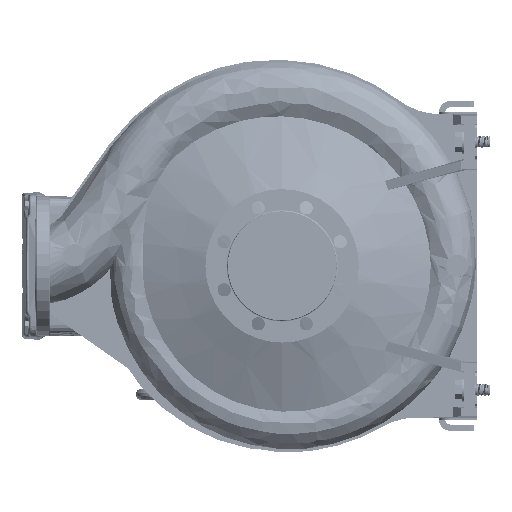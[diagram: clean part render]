
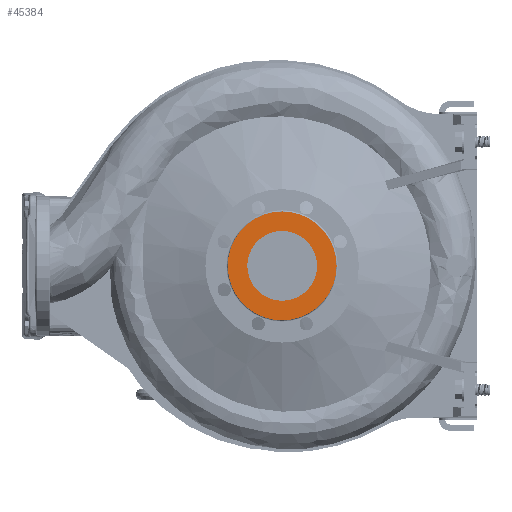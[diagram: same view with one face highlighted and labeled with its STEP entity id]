
A CAD part, left-side view. The second image highlights one B-rep face of the part: STEP entity #45384.
In plain terms, the highlighted planar face has unit normal (-1, 0, 0).
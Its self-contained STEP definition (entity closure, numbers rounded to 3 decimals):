
#5564 = DIRECTION ( 'NONE',  ( 0., 0., 1. ) ) ;
#8608 = EDGE_CURVE ( 'NONE', #157545, #87246, #125585, .T. ) ;
#17192 = DIRECTION ( 'NONE',  ( 0., 0., 1. ) ) ;
#24760 = CIRCLE ( 'NONE', #120511, 50. ) ;
#28418 = EDGE_LOOP ( 'NONE', ( #145557, #104790 ) ) ;
#34703 = CARTESIAN_POINT ( 'NONE',  ( -125., 0., -78. ) ) ;
#34916 = CARTESIAN_POINT ( 'NONE',  ( -125., 0., 0. ) ) ;
#37098 = EDGE_CURVE ( 'NONE', #87246, #157545, #156122, .T. ) ;
#45384 = ADVANCED_FACE ( 'NONE', ( #84223, #168646 ), #97839, .F. ) ;
#66823 = CARTESIAN_POINT ( 'NONE',  ( -125., 0., -50. ) ) ;
#71921 = EDGE_CURVE ( 'NONE', #100602, #117959, #24760, .T. ) ;
#81832 = AXIS2_PLACEMENT_3D ( 'NONE', #112390, #173107, #100527 ) ;
#84223 = FACE_BOUND ( 'NONE', #28418, .T. ) ;
#87246 = VERTEX_POINT ( 'NONE', #134221 ) ;
#89843 = CARTESIAN_POINT ( 'NONE',  ( -125., 0., 0. ) ) ;
#90381 = DIRECTION ( 'NONE',  ( -1., 0., 0. ) ) ;
#94814 = ORIENTED_EDGE ( 'NONE', *, *, #37098, .T. ) ;
#94872 = AXIS2_PLACEMENT_3D ( 'NONE', #167342, #124739, #123832 ) ;
#97839 = PLANE ( 'NONE',  #81832 ) ;
#100527 = DIRECTION ( 'NONE',  ( 0., 0., -1. ) ) ;
#100602 = VERTEX_POINT ( 'NONE', #100779 ) ;
#100779 = CARTESIAN_POINT ( 'NONE',  ( -125., 0., 50. ) ) ;
#104450 = ORIENTED_EDGE ( 'NONE', *, *, #8608, .T. ) ;
#104790 = ORIENTED_EDGE ( 'NONE', *, *, #164850, .F. ) ;
#105234 = AXIS2_PLACEMENT_3D ( 'NONE', #141906, #116452, #5564 ) ;
#112390 = CARTESIAN_POINT ( 'NONE',  ( -125., 78., 0. ) ) ;
#116452 = DIRECTION ( 'NONE',  ( -1., 0., 0. ) ) ;
#117959 = VERTEX_POINT ( 'NONE', #66823 ) ;
#120511 = AXIS2_PLACEMENT_3D ( 'NONE', #34916, #90381, #145771 ) ;
#123832 = DIRECTION ( 'NONE',  ( 0., 0., 1. ) ) ;
#124739 = DIRECTION ( 'NONE',  ( -1., 0., 0. ) ) ;
#125585 = CIRCLE ( 'NONE', #105234, 78. ) ;
#134221 = CARTESIAN_POINT ( 'NONE',  ( -125., 0., 78. ) ) ;
#141906 = CARTESIAN_POINT ( 'NONE',  ( -125., 0., 0. ) ) ;
#145557 = ORIENTED_EDGE ( 'NONE', *, *, #71921, .F. ) ;
#145771 = DIRECTION ( 'NONE',  ( 0., 0., 1. ) ) ;
#152924 = CIRCLE ( 'NONE', #94872, 50. ) ;
#156122 = CIRCLE ( 'NONE', #164803, 78. ) ;
#157108 = DIRECTION ( 'NONE',  ( -1., 0., 0. ) ) ;
#157545 = VERTEX_POINT ( 'NONE', #34703 ) ;
#164803 = AXIS2_PLACEMENT_3D ( 'NONE', #89843, #157108, #17192 ) ;
#164850 = EDGE_CURVE ( 'NONE', #117959, #100602, #152924, .T. ) ;
#167342 = CARTESIAN_POINT ( 'NONE',  ( -125., 0., 0. ) ) ;
#168646 = FACE_OUTER_BOUND ( 'NONE', #174273, .T. ) ;
#173107 = DIRECTION ( 'NONE',  ( 1., 0., 0. ) ) ;
#174273 = EDGE_LOOP ( 'NONE', ( #94814, #104450 ) ) ;
